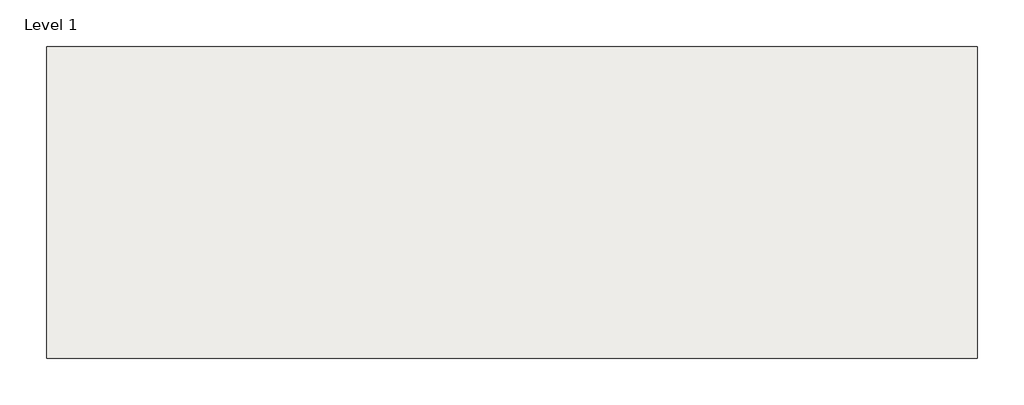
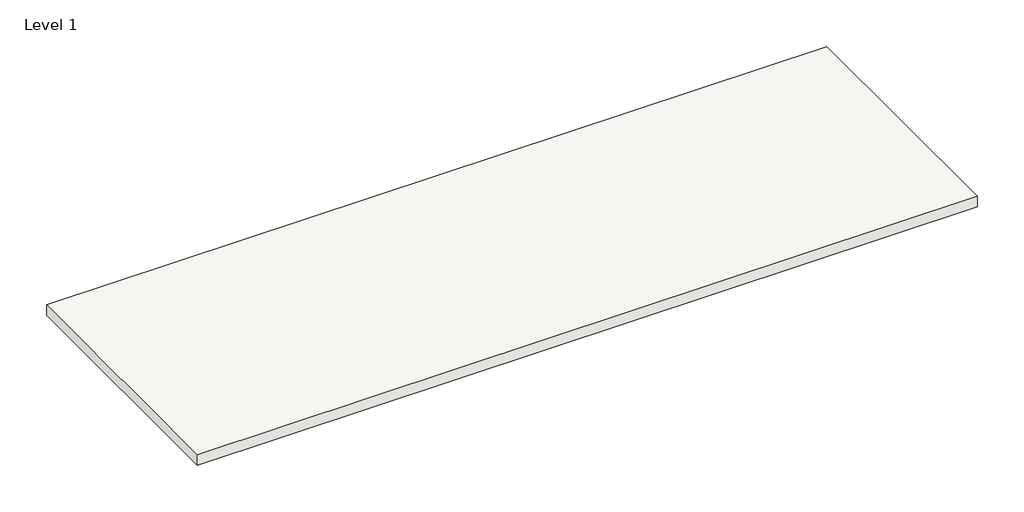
# One storey, incomplete: 1 slab.
"""IFC4 building model written with IfcOpenShell, lengths in millimetres."""

from ifc_helpers import new_model, si_unit, frame, origin, place, context, project, spatial, polyline, outline, extrude, element, save

model = new_model("IFC4")

# Units and contexts
model_context = context("Model", 3, world=origin())
ifc_project = project(units=[si_unit("LENGTHUNIT", "METRE", prefix="MILLI")], contexts=[model_context])

# Site, building, storey
site = spatial("IfcSite", under=ifc_project)
building = spatial("IfcBuilding", under=site)
storey = spatial("IfcBuildingStorey", under=building, Name="Level 1", Elevation=0.0)

# Slab
placement = place(None, origin())
element("IfcSlab", 1, ObjectType="Generic - 12\"", at=placement, inside=storey, context=model_context, shape_type="SweptSolid", body=[
    extrude(outline(polyline([(2351.5757994, 19137.2598675), (2351.5757994, 11937.2598675), (-19148.4242006, 11937.2598675), (-19148.4242006, 19137.2598675), (2351.5757994, 19137.2598675)])), frame((0.0, 0.0, -304.8), z_axis=(0.0, 0.0, 1.0), x_axis=(1.0, 0.0, 0.0)), (0.0, 0.0, 1.0), 304.8),
])

save(model, "model.ifc")
